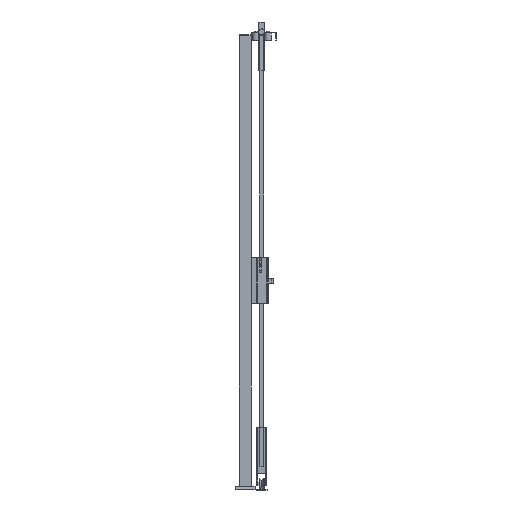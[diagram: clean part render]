
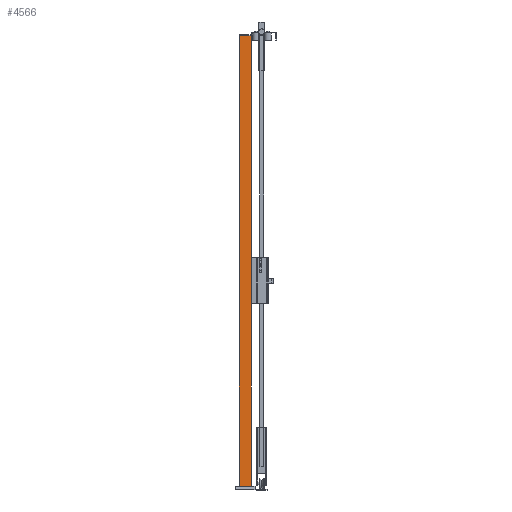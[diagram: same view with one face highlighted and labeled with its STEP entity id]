
A CAD part, left-side view. The second image highlights one B-rep face of the part: STEP entity #4566.
In plain terms, the highlighted planar face has unit normal (-1, 0, 0) as drawn and (0, 1, 0) by its records, which use the part's own axes.
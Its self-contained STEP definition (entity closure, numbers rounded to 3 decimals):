
#499=FACE_OUTER_BOUND('',#834,.T.);
#834=EDGE_LOOP('',(#2847,#2848,#2849,#2850));
#1210=VERTEX_POINT('',#9621);
#1211=VERTEX_POINT('',#9623);
#1213=VERTEX_POINT('',#9629);
#1216=VERTEX_POINT('',#9634);
#1860=EDGE_CURVE('',#1210,#1211,#5353,.T.);
#1866=EDGE_CURVE('',#1216,#1213,#5359,.T.);
#1869=EDGE_CURVE('',#1211,#1216,#5362,.T.);
#1870=EDGE_CURVE('',#1210,#1213,#5363,.T.);
#2847=ORIENTED_EDGE('',*,*,#1870,.T.);
#2848=ORIENTED_EDGE('',*,*,#1866,.F.);
#2849=ORIENTED_EDGE('',*,*,#1869,.F.);
#2850=ORIENTED_EDGE('',*,*,#1860,.F.);
#4277=PLANE('',#6827);
#4566=ADVANCED_FACE('',(#499),#4277,.F.);
#5353=LINE('',#9624,#6144);
#5359=LINE('',#9636,#6150);
#5362=LINE('',#9641,#6153);
#5363=LINE('',#9643,#6154);
#6144=VECTOR('',#7588,1.);
#6150=VECTOR('',#7596,1.);
#6153=VECTOR('',#7603,1.);
#6154=VECTOR('',#7606,1.);
#6827=AXIS2_PLACEMENT_3D('',#9642,#7604,#7605);
#7588=DIRECTION('',(-1.,0.,0.));
#7596=DIRECTION('',(1.,0.,0.));
#7603=DIRECTION('',(0.,0.,-1.));
#7604=DIRECTION('center_axis',(0.,-1.,0.));
#7605=DIRECTION('ref_axis',(0.,0.,-1.));
#7606=DIRECTION('',(0.,0.,-1.));
#9621=CARTESIAN_POINT('',(30.,30.,2320.));
#9623=CARTESIAN_POINT('',(-30.,30.,2320.));
#9624=CARTESIAN_POINT('',(0.,30.,2320.));
#9629=CARTESIAN_POINT('',(30.,30.,20.));
#9634=CARTESIAN_POINT('',(-30.,30.,20.));
#9636=CARTESIAN_POINT('',(0.,30.,20.));
#9641=CARTESIAN_POINT('',(-30.,30.,1170.));
#9642=CARTESIAN_POINT('Origin',(0.,30.,
1170.));
#9643=CARTESIAN_POINT('',(30.,30.,1170.));
